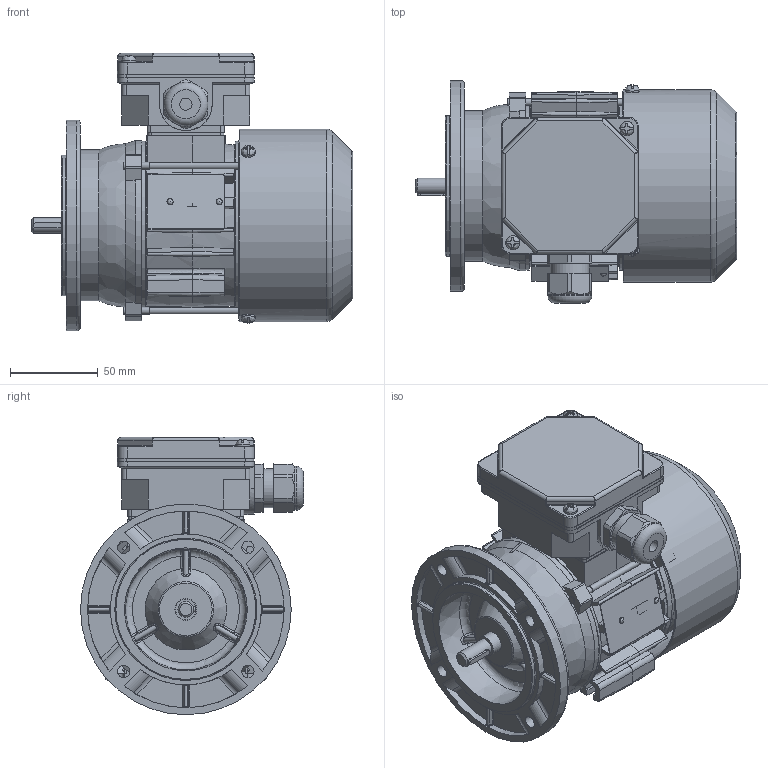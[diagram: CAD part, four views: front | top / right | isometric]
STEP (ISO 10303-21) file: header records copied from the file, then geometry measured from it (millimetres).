
FILE_DESCRIPTION( ( 'Unknown' ), '1' );
FILE_NAME( 'G:/Poczta Tk-1/STP/w.m.56/Sh56/SKh56-A.stp', 'Unknown', ( 'K. Szlosek' ), ( 'BESEL S.A.' ), 'PSStep 17.0.49', 'Unknown', ' ' );
FILE_SCHEMA( ( 'AUTOMOTIVE_DESIGN { 1 0 10303 214 1 1 1 1 }' ) );
Length unit declared in the file: millimetre
Products named in the file (28): Assem1; K4-2320 Uszczelka nr 1 Sh71,80; K1-0512 Tarcza kołnierzowa B5  SKg56-..; K3-9987 kadłub ze stojanem Sh56-B; K3-2193 Tarcza łożyskowa P Sg56-2..; K3-9990 wał Sh56-B; K2-0860 Pokrywka skrzynki zaciskowej; Wpust A3x3x16; K4-2820 Uszczelka nr 2 Sh71,80; Wkręt samogwintujący M4x8; Wkręt samogwintujący M4x16; K2-0879 Przewietrznik Sg56; Nitokołek A 2x6; K3-11363 Osłona przewietrznika Sh 56_A; K2-0859 Podstawa skrzynki 6-cio zaciskowej; Śruba ściągająca E_M4x75; Tabliczka znamionowa 32x44; Łożysko 6201; Dławnica M20x1,5
Assembly tree (43 placements, depth 2):
  Assem1
    K4-2320 Uszczelka nr 1 Sh71,80
    K1-0512 Tarcza kołnierzowa B5  SKg56-..
    K3-9987 kadłub ze stojanem Sh56-B
    K3-2193 Tarcza łożyskowa P Sg56-2..
    K3-9990 wał Sh56-B
    K2-0860 Pokrywka skrzynki zaciskowej
    Wpust A3x3x16
    K4-2820 Uszczelka nr 2 Sh71,80
    Wkręt samogwintujący M4x8  x3
    Wkręt samogwintujący M4x16  x2
    K2-0879 Przewietrznik Sg56
    Nitokołek A 2x6  x2
    K3-11363 Osłona przewietrznika Sh 56_A
    K2-0859 Podstawa skrzynki 6-cio zaciskowej
    Śruba ściągająca E_M4x75  x3
    Tabliczka znamionowa 32x44
    Łożysko 6201  x2
    Łożysko 6201  x2
    Łożysko 6201  x2
    Łożysko 6201  x2
    Łożysko 6201  x2
    Łożysko 6201  x2
    Łożysko 6201  x2
    Łożysko 6201  x2
    Łożysko 6201  x2
    Łożysko 6201  x2
    Dławnica M20x1,5
Bounding box: 183 x 127 x 158 mm (x, y, z)
Volume: 425021.9 mm3; surface area: 297353.7 mm2
Topology: 43 solids, 59 shells, 1774 faces, 4776 edges, 3083 vertices
Faces by surface type: plane 899, cylinder 526, bspline 117, cone 104, torus 94, sphere 34
Full cylindrical faces by diameter (mm): 2 x2, 2.4 x2, 3.3 x3, 3.7 x10, 4 x8, 4.5 x4, 4.6 x1, 4.8 x4, 5 x4, 7 x8, 8 x6, 9 x1, 10.9 x1, 11 x1, 11.5 x1, 11.8 x2, 12 x4, 12.4 x2, 15.5 x1, 16 x1, 16.1 x1, 17 x2, 18.376 x1, 18.38 x1, 18.52 x4, 20 x1, 22.3 x1, 24 x2, 25 x1, 25.48 x4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
Entity records: 79235 total; most frequent: CARTESIAN_POINT 26447, ORIENTED_EDGE 8184, DIRECTION 8050, EDGE_CURVE 4092, AXIS2_PLACEMENT_3D 2988, VERTEX_POINT 2768, LINE 2074, VECTOR 2074
